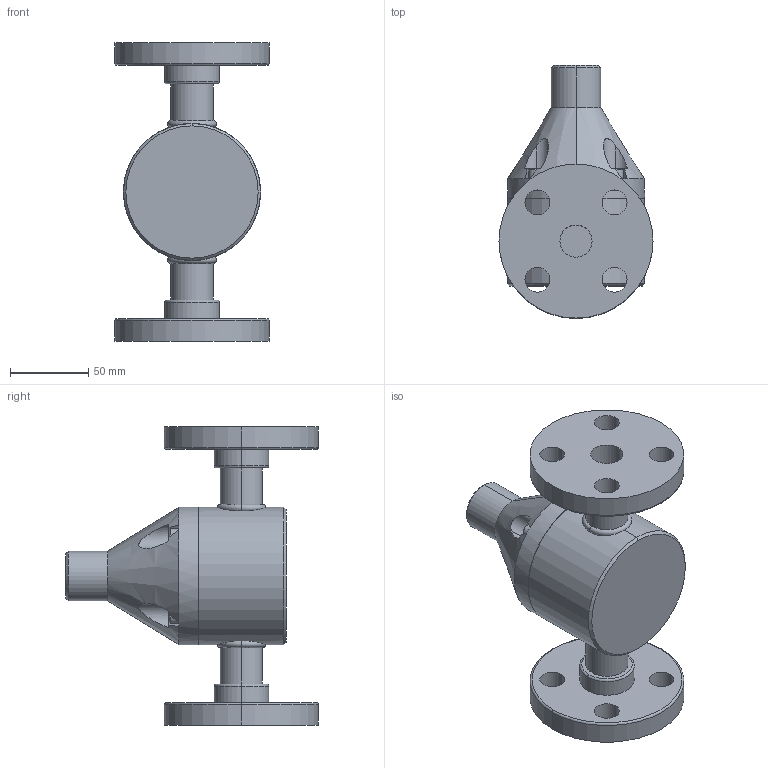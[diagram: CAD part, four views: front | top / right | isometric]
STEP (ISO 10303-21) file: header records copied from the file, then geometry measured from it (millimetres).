
FILE_DESCRIPTION (( 'STEP AP203' ), '1' );
FILE_NAME ('GBP0750-FLNG.STEP', '2016-02-12T10:26:05', ( '' ), ( '' ), 'SwSTEP 2.0', 'SolidWorks 2014', '' );
FILE_SCHEMA (( 'CONFIG_CONTROL_DESIGN' ));
Length unit declared in the file: inch
Products named in the file (2): GBP0750-FLNG
Bounding box: 98.42 x 161.61 x 190.5 mm (x, y, z)
Volume: 794231 mm3; surface area: 96429.5 mm2
Topology: 1 solids, 1 shells, 165 faces, 394 edges, 250 vertices
Faces by surface type: plane 77, cylinder 56, cone 18, torus 14
Entity records: 5389 total; most frequent: CARTESIAN_POINT 1265, DIRECTION 872, ORIENTED_EDGE 788, EDGE_CURVE 394, AXIS2_PLACEMENT_3D 333, VERTEX_POINT 250, LINE 206, VECTOR 206
